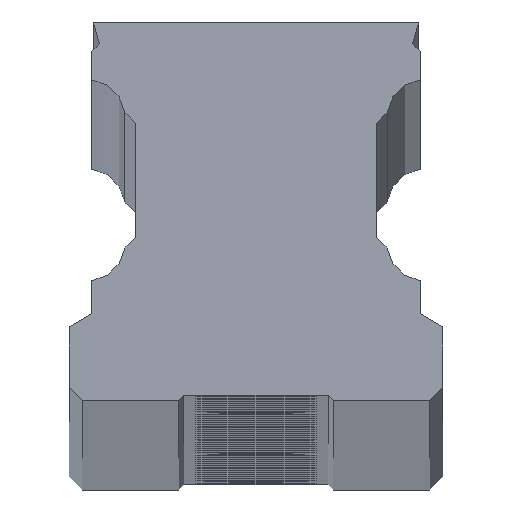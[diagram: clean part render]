
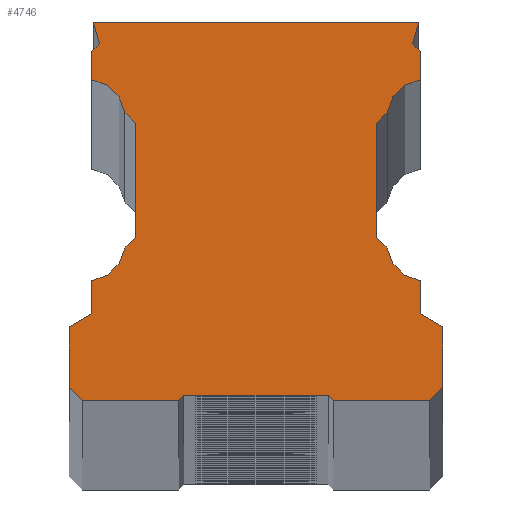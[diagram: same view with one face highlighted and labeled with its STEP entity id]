
A CAD part, top view. The second image highlights one B-rep face of the part: STEP entity #4746.
In plain terms, the highlighted planar face has unit normal (0, 0, 1).
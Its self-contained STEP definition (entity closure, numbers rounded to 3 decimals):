
#667=DIRECTION('',(-0.707,0.707,0.));
#668=VECTOR('',#667,1.414);
#669=CARTESIAN_POINT('',(-13.,-16.5,1918.));
#670=LINE('',#669,#668);
#691=CARTESIAN_POINT('',(-12.658,-4.692,1918.));
#692=DIRECTION('',(0.,0.,-1.));
#693=DIRECTION('',(0.991,-0.133,0.));
#694=AXIS2_PLACEMENT_3D('',#691,#692,#693);
#701=DIRECTION('',(-0.707,-0.707,0.));
#702=VECTOR('',#701,0.566);
#703=CARTESIAN_POINT('',(-5.4,-16.1,1918.));
#704=LINE('',#703,#702);
#705=DIRECTION('',(1.,0.,0.));
#706=VECTOR('',#705,7.2);
#707=CARTESIAN_POINT('',(-13.,-16.5,1918.));
#708=LINE('',#707,#706);
#709=DIRECTION('',(0.,-1.,0.));
#710=VECTOR('',#709,4.519);
#711=CARTESIAN_POINT('',(-14.,-10.981,1918.));
#712=LINE('',#711,#710);
#713=DIRECTION('',(0.866,0.5,0.));
#714=VECTOR('',#713,1.963);
#715=CARTESIAN_POINT('',(-14.,-10.981,1918.));
#716=LINE('',#715,#714);
#717=DIRECTION('',(0.,-1.,0.));
#718=VECTOR('',#717,2.47);
#719=CARTESIAN_POINT('',(-12.3,-7.53,1918.));
#720=LINE('',#719,#718);
#721=DIRECTION('',(0.707,0.707,0.));
#722=VECTOR('',#721,1.165);
#723=CARTESIAN_POINT('',(-9.824,-5.074,1918.));
#724=LINE('',#723,#722);
#725=DIRECTION('',(0.,1.,0.));
#726=VECTOR('',#725,8.5);
#727=CARTESIAN_POINT('',(-9.,-4.25,1918.));
#728=LINE('',#727,#726);
#729=DIRECTION('',(-0.707,0.707,0.));
#730=VECTOR('',#729,1.165);
#731=CARTESIAN_POINT('',(-9.,4.25,1918.));
#732=LINE('',#731,#730);
#733=DIRECTION('',(0.,-1.,0.));
#734=VECTOR('',#733,2.118);
#735=CARTESIAN_POINT('',(-12.3,9.648,1918.));
#736=LINE('',#735,#734);
#737=DIRECTION('',(0.707,0.707,0.));
#738=VECTOR('',#737,0.8);
#739=CARTESIAN_POINT('',(-12.3,9.648,1918.));
#740=LINE('',#739,#738);
#741=DIRECTION('',(-0.259,0.966,0.));
#742=VECTOR('',#741,1.695);
#743=CARTESIAN_POINT('',(-11.735,10.213,1918.));
#744=LINE('',#743,#742);
#745=DIRECTION('',(-1.,0.,0.));
#746=VECTOR('',#745,24.346);
#747=CARTESIAN_POINT('',(12.173,11.85,1918.));
#748=LINE('',#747,#746);
#749=DIRECTION('',(-0.259,-0.966,0.));
#750=VECTOR('',#749,1.695);
#751=CARTESIAN_POINT('',(12.173,11.85,1918.));
#752=LINE('',#751,#750);
#753=DIRECTION('',(0.707,-0.707,0.));
#754=VECTOR('',#753,0.8);
#755=CARTESIAN_POINT('',(11.735,10.213,1918.));
#756=LINE('',#755,#754);
#757=DIRECTION('',(0.,-1.,0.));
#758=VECTOR('',#757,2.118);
#759=CARTESIAN_POINT('',(12.3,9.648,1918.));
#760=LINE('',#759,#758);
#761=DIRECTION('',(-0.707,-0.707,0.));
#762=VECTOR('',#761,1.165);
#763=CARTESIAN_POINT('',(9.824,5.074,1918.));
#764=LINE('',#763,#762);
#765=DIRECTION('',(0.,-1.,0.));
#766=VECTOR('',#765,8.5);
#767=CARTESIAN_POINT('',(9.,4.25,1918.));
#768=LINE('',#767,#766);
#769=DIRECTION('',(0.707,-0.707,0.));
#770=VECTOR('',#769,1.165);
#771=CARTESIAN_POINT('',(9.,-4.25,1918.));
#772=LINE('',#771,#770);
#773=DIRECTION('',(0.,-1.,0.));
#774=VECTOR('',#773,2.47);
#775=CARTESIAN_POINT('',(12.3,-7.53,1918.));
#776=LINE('',#775,#774);
#777=DIRECTION('',(0.866,-0.5,0.));
#778=VECTOR('',#777,1.963);
#779=CARTESIAN_POINT('',(12.3,-10.,1918.));
#780=LINE('',#779,#778);
#781=DIRECTION('',(0.,1.,0.));
#782=VECTOR('',#781,4.519);
#783=CARTESIAN_POINT('',(14.,-15.5,1918.));
#784=LINE('',#783,#782);
#785=DIRECTION('',(1.,0.,0.));
#786=VECTOR('',#785,7.2);
#787=CARTESIAN_POINT('',(5.8,-16.5,1918.));
#788=LINE('',#787,#786);
#789=DIRECTION('',(-0.707,0.707,0.));
#790=VECTOR('',#789,0.566);
#791=CARTESIAN_POINT('',(5.8,-16.5,1918.));
#792=LINE('',#791,#790);
#793=DIRECTION('',(-1.,0.,0.));
#794=VECTOR('',#793,10.8);
#795=CARTESIAN_POINT('',(5.4,-16.1,1918.));
#796=LINE('',#795,#794);
#813=CARTESIAN_POINT('',(-12.658,4.692,1918.));
#814=DIRECTION('',(0.,0.,-1.));
#815=DIRECTION('',(0.125,0.992,0.));
#816=AXIS2_PLACEMENT_3D('',#813,#814,#815);
#1336=CARTESIAN_POINT('',(12.658,-4.692,1918.));
#1337=DIRECTION('',(0.,0.,-1.));
#1338=DIRECTION('',(-0.125,-0.992,0.));
#1339=AXIS2_PLACEMENT_3D('',#1336,#1337,#1338);
#1357=CARTESIAN_POINT('',(12.658,4.692,1918.));
#1358=DIRECTION('',(0.,0.,-1.));
#1359=DIRECTION('',(-0.991,0.133,0.));
#1360=AXIS2_PLACEMENT_3D('',#1357,#1358,#1359);
#1387=DIRECTION('',(-0.707,-0.707,0.));
#1388=VECTOR('',#1387,1.414);
#1389=CARTESIAN_POINT('',(14.,-15.5,1918.));
#1390=LINE('',#1389,#1388);
#3611=CARTESIAN_POINT('',(12.3,-10.,1918.));
#3612=CARTESIAN_POINT('',(14.,-10.981,1918.));
#3613=VERTEX_POINT('',#3611);
#3614=VERTEX_POINT('',#3612);
#3615=CARTESIAN_POINT('',(-14.,-10.981,1918.));
#3616=CARTESIAN_POINT('',(-12.3,-10.,1918.));
#3617=VERTEX_POINT('',#3615);
#3618=VERTEX_POINT('',#3616);
#3620=CARTESIAN_POINT('',(12.3,7.53,1918.));
#3622=VERTEX_POINT('',#3620);
#3624=CARTESIAN_POINT('',(12.3,-7.53,1918.));
#3626=VERTEX_POINT('',#3624);
#3628=CARTESIAN_POINT('',(-12.3,7.53,1918.));
#3630=VERTEX_POINT('',#3628);
#3632=CARTESIAN_POINT('',(-12.3,-7.53,1918.));
#3634=VERTEX_POINT('',#3632);
#3643=CARTESIAN_POINT('',(9.,4.25,1918.));
#3644=CARTESIAN_POINT('',(9.,-4.25,1918.));
#3645=VERTEX_POINT('',#3643);
#3646=VERTEX_POINT('',#3644);
#3647=CARTESIAN_POINT('',(9.824,-5.074,1918.));
#3648=VERTEX_POINT('',#3647);
#3649=CARTESIAN_POINT('',(9.824,5.074,1918.));
#3650=VERTEX_POINT('',#3649);
#3651=CARTESIAN_POINT('',(-9.824,5.074,1918.));
#3652=VERTEX_POINT('',#3651);
#3655=CARTESIAN_POINT('',(-9.824,-5.074,1918.));
#3656=VERTEX_POINT('',#3655);
#3671=CARTESIAN_POINT('',(12.173,11.85,1918.));
#3672=CARTESIAN_POINT('',(11.735,10.213,1918.));
#3673=VERTEX_POINT('',#3671);
#3674=VERTEX_POINT('',#3672);
#3675=CARTESIAN_POINT('',(12.3,9.648,1918.));
#3676=VERTEX_POINT('',#3675);
#3677=CARTESIAN_POINT('',(-12.3,9.648,1918.));
#3678=CARTESIAN_POINT('',(-11.735,10.213,1918.));
#3679=VERTEX_POINT('',#3677);
#3680=VERTEX_POINT('',#3678);
#3681=CARTESIAN_POINT('',(-12.173,11.85,1918.));
#3682=VERTEX_POINT('',#3681);
#3684=CARTESIAN_POINT('',(14.,-15.5,1918.));
#3686=VERTEX_POINT('',#3684);
#3688=CARTESIAN_POINT('',(13.,-16.5,1918.));
#3690=VERTEX_POINT('',#3688);
#3692=CARTESIAN_POINT('',(-13.,-16.5,1918.));
#3694=VERTEX_POINT('',#3692);
#3696=CARTESIAN_POINT('',(-14.,-15.5,1918.));
#3698=VERTEX_POINT('',#3696);
#3707=CARTESIAN_POINT('',(-5.4,-16.1,1918.));
#3708=CARTESIAN_POINT('',(-5.8,-16.5,1918.));
#3709=VERTEX_POINT('',#3707);
#3710=VERTEX_POINT('',#3708);
#3711=CARTESIAN_POINT('',(5.8,-16.5,1918.));
#3712=CARTESIAN_POINT('',(5.4,-16.1,1918.));
#3713=VERTEX_POINT('',#3711);
#3714=VERTEX_POINT('',#3712);
#3735=CARTESIAN_POINT('',(-9.,-4.25,1918.));
#3736=VERTEX_POINT('',#3735);
#3737=CARTESIAN_POINT('',(-9.,4.25,1918.));
#3738=VERTEX_POINT('',#3737);
#4688=CARTESIAN_POINT('',(0.,0.,1918.));
#4689=DIRECTION('',(0.,0.,1.));
#4690=DIRECTION('',(1.,0.,0.));
#4691=AXIS2_PLACEMENT_3D('',#4688,#4689,#4690);
#4692=PLANE('',#4691);
#4693=ORIENTED_EDGE('',*,*,#4567,.T.);
#4694=ORIENTED_EDGE('',*,*,#4583,.F.);
#4695=ORIENTED_EDGE('',*,*,#4612,.T.);
#4696=ORIENTED_EDGE('',*,*,#4624,.F.);
#4697=ORIENTED_EDGE('',*,*,#4639,.T.);
#4698=ORIENTED_EDGE('',*,*,#4652,.F.);
#4699=ORIENTED_EDGE('',*,*,#4679,.F.);
#4701=ORIENTED_EDGE('',*,*,#4700,.T.);
#4703=ORIENTED_EDGE('',*,*,#4702,.T.);
#4705=ORIENTED_EDGE('',*,*,#4704,.T.);
#4707=ORIENTED_EDGE('',*,*,#4706,.F.);
#4708=ORIENTED_EDGE('',*,*,#4666,.F.);
#4710=ORIENTED_EDGE('',*,*,#4709,.T.);
#4712=ORIENTED_EDGE('',*,*,#4711,.T.);
#4714=ORIENTED_EDGE('',*,*,#4713,.F.);
#4716=ORIENTED_EDGE('',*,*,#4715,.T.);
#4718=ORIENTED_EDGE('',*,*,#4717,.T.);
#4720=ORIENTED_EDGE('',*,*,#4719,.T.);
#4722=ORIENTED_EDGE('',*,*,#4721,.F.);
#4724=ORIENTED_EDGE('',*,*,#4723,.T.);
#4726=ORIENTED_EDGE('',*,*,#4725,.T.);
#4728=ORIENTED_EDGE('',*,*,#4727,.T.);
#4730=ORIENTED_EDGE('',*,*,#4729,.F.);
#4732=ORIENTED_EDGE('',*,*,#4731,.T.);
#4734=ORIENTED_EDGE('',*,*,#4733,.T.);
#4736=ORIENTED_EDGE('',*,*,#4735,.F.);
#4738=ORIENTED_EDGE('',*,*,#4737,.T.);
#4739=ORIENTED_EDGE('',*,*,#4595,.F.);
#4741=ORIENTED_EDGE('',*,*,#4740,.T.);
#4743=ORIENTED_EDGE('',*,*,#4742,.T.);
#4744=EDGE_LOOP('',(#4693,#4694,#4695,#4696,#4697,#4698,#4699,#4701,#4703,#4705,
#4707,#4708,#4710,#4712,#4714,#4716,#4718,#4720,#4722,#4724,#4726,#4728,#4730,
#4732,#4734,#4736,#4738,#4739,#4741,#4743));
#4745=FACE_OUTER_BOUND('',#4744,.F.);
#4746=ADVANCED_FACE('',(#4745),#4692,.T.);
#695=CIRCLE('',#694,2.86);
#817=CIRCLE('',#816,2.86);
#1340=CIRCLE('',#1339,2.86);
#1361=CIRCLE('',#1360,2.86);
#4567=EDGE_CURVE('',#3709,#3710,#704,.T.);
#4583=EDGE_CURVE('',#3694,#3710,#708,.T.);
#4595=EDGE_CURVE('',#3713,#3690,#788,.T.);
#4612=EDGE_CURVE('',#3694,#3698,#670,.T.);
#4624=EDGE_CURVE('',#3617,#3698,#712,.T.);
#4639=EDGE_CURVE('',#3617,#3618,#716,.T.);
#4652=EDGE_CURVE('',#3634,#3618,#720,.T.);
#4666=EDGE_CURVE('',#3679,#3630,#736,.T.);
#4679=EDGE_CURVE('',#3656,#3634,#695,.T.);
#4700=EDGE_CURVE('',#3656,#3736,#724,.T.);
#4702=EDGE_CURVE('',#3736,#3738,#728,.T.);
#4704=EDGE_CURVE('',#3738,#3652,#732,.T.);
#4706=EDGE_CURVE('',#3630,#3652,#817,.T.);
#4709=EDGE_CURVE('',#3679,#3680,#740,.T.);
#4711=EDGE_CURVE('',#3680,#3682,#744,.T.);
#4713=EDGE_CURVE('',#3673,#3682,#748,.T.);
#4715=EDGE_CURVE('',#3673,#3674,#752,.T.);
#4717=EDGE_CURVE('',#3674,#3676,#756,.T.);
#4719=EDGE_CURVE('',#3676,#3622,#760,.T.);
#4721=EDGE_CURVE('',#3650,#3622,#1361,.T.);
#4723=EDGE_CURVE('',#3650,#3645,#764,.T.);
#4725=EDGE_CURVE('',#3645,#3646,#768,.T.);
#4727=EDGE_CURVE('',#3646,#3648,#772,.T.);
#4729=EDGE_CURVE('',#3626,#3648,#1340,.T.);
#4731=EDGE_CURVE('',#3626,#3613,#776,.T.);
#4733=EDGE_CURVE('',#3613,#3614,#780,.T.);
#4735=EDGE_CURVE('',#3686,#3614,#784,.T.);
#4737=EDGE_CURVE('',#3686,#3690,#1390,.T.);
#4740=EDGE_CURVE('',#3713,#3714,#792,.T.);
#4742=EDGE_CURVE('',#3714,#3709,#796,.T.);
